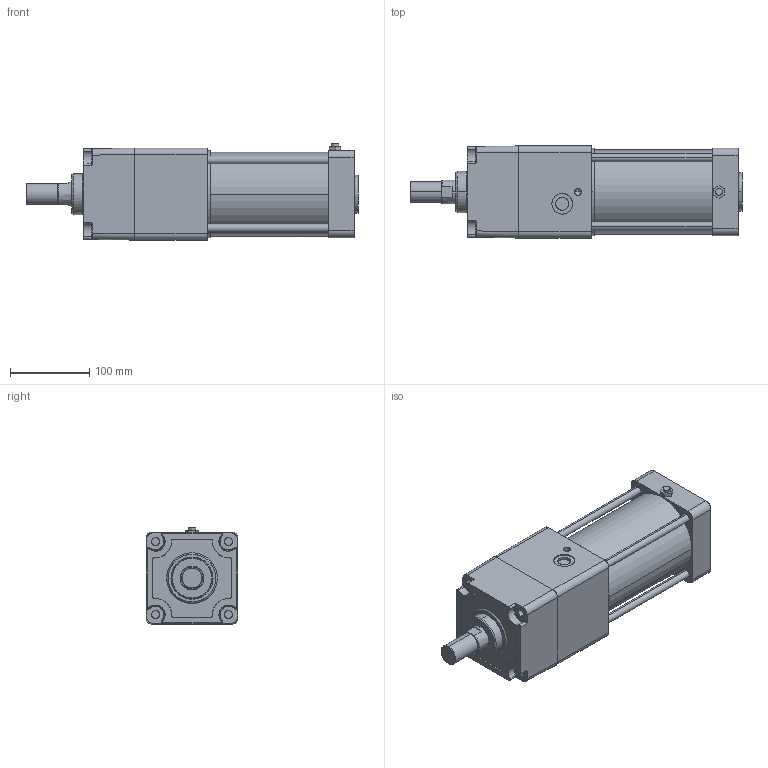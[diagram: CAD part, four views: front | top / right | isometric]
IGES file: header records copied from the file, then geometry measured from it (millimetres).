
Start section: SolidWorks IGES file using analytic representation for surfaces
Global section: file name: C:\Users\Toshiba\Desktop\KGSP2-100-100-N.IGS; native system: SolidWorks 2014; preprocessor: SolidWorks 2014; author: Toshiba; date: 160420.160108; units: millimetre
Bounding box: 418.8 x 116 x 121.3 mm (x, y, z)
Surface area: 307727.8 mm2 (no closed solid volume)
Topology: 0 solids, 0 shells, 331 faces, 5388 edges, 5370 vertices
Faces by surface type: revolution 174, bspline 157
